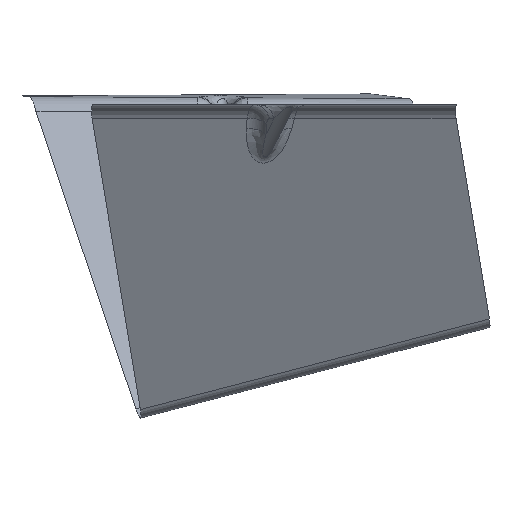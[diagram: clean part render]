
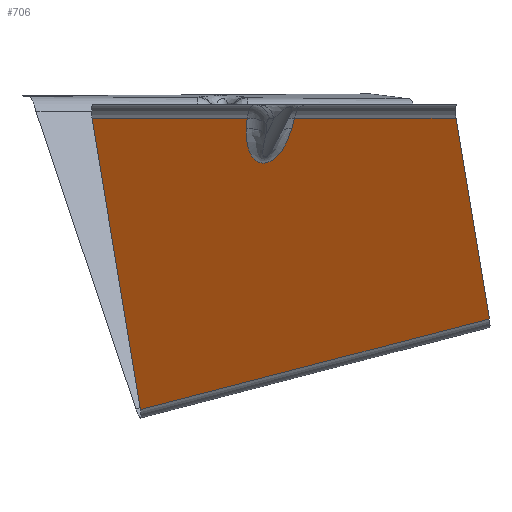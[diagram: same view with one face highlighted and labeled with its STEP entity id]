
A CAD part, left-side view. The second image highlights one B-rep face of the part: STEP entity #706.
In plain terms, the highlighted planar face has unit normal (-0.83, -0.249, -0.5).
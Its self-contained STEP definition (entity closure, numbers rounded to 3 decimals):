
#251=CARTESIAN_POINT('Vertex',(-89.67,7.485,-1.2)) ;
#274=CARTESIAN_POINT('Line Origine',(-71.506,9.618,-32.397)) ;
#278=CARTESIAN_POINT('Vertex',(-88.028,7.678,-4.021)) ;
#591=CARTESIAN_POINT('Control Point',(-84.292,-4.774,-4.021)) ;
#592=CARTESIAN_POINT('Control Point',(-84.082,-4.668,-4.423)) ;
#593=CARTESIAN_POINT('Control Point',(-83.874,-4.552,-4.825)) ;
#594=CARTESIAN_POINT('Control Point',(-83.67,-4.425,-5.226)) ;
#595=CARTESIAN_POINT('Control Point',(-83.096,-4.032,-6.374)) ;
#596=CARTESIAN_POINT('Control Point',(-82.556,-3.546,-7.513)) ;
#597=CARTESIAN_POINT('Control Point',(-82.222,-3.188,-8.245)) ;
#598=CARTESIAN_POINT('Control Point',(-81.775,-2.61,-9.273)) ;
#599=CARTESIAN_POINT('Control Point',(-81.387,-1.906,-10.269)) ;
#600=CARTESIAN_POINT('Control Point',(-81.278,-1.688,-10.558)) ;
#601=CARTESIAN_POINT('Control Point',(-81.092,-1.263,-11.077)) ;
#602=CARTESIAN_POINT('Control Point',(-80.934,-0.787,-11.577)) ;
#603=CARTESIAN_POINT('Control Point',(-80.869,-0.56,-11.798)) ;
#604=CARTESIAN_POINT('Control Point',(-80.767,-0.129,-12.181)) ;
#605=CARTESIAN_POINT('Control Point',(-80.698,0.352,-12.536)) ;
#606=CARTESIAN_POINT('Control Point',(-80.675,0.574,-12.685)) ;
#607=CARTESIAN_POINT('Control Point',(-80.644,1.083,-12.988)) ;
#608=CARTESIAN_POINT('Control Point',(-80.668,1.648,-13.23)) ;
#609=CARTESIAN_POINT('Control Point',(-80.7,1.972,-13.339)) ;
#610=CARTESIAN_POINT('Control Point',(-80.794,2.534,-13.462)) ;
#611=CARTESIAN_POINT('Control Point',(-80.954,3.1,-13.478)) ;
#612=CARTESIAN_POINT('Control Point',(-81.029,3.323,-13.465)) ;
#613=CARTESIAN_POINT('Control Point',(-81.257,3.916,-13.382)) ;
#614=CARTESIAN_POINT('Control Point',(-81.534,4.44,-13.183)) ;
#615=CARTESIAN_POINT('Control Point',(-81.722,4.739,-13.02)) ;
#616=CARTESIAN_POINT('Control Point',(-82.053,5.203,-12.702)) ;
#617=CARTESIAN_POINT('Control Point',(-82.39,5.587,-12.334)) ;
#618=CARTESIAN_POINT('Control Point',(-82.535,5.739,-12.169)) ;
#619=CARTESIAN_POINT('Control Point',(-82.863,6.059,-11.784)) ;
#620=CARTESIAN_POINT('Control Point',(-83.188,6.326,-11.377)) ;
#621=CARTESIAN_POINT('Control Point',(-83.369,6.462,-11.144)) ;
#622=CARTESIAN_POINT('Control Point',(-83.778,6.744,-10.606)) ;
#623=CARTESIAN_POINT('Control Point',(-84.181,6.97,-10.051)) ;
#624=CARTESIAN_POINT('Control Point',(-84.404,7.081,-9.737)) ;
#625=CARTESIAN_POINT('Control Point',(-84.899,7.301,-9.024)) ;
#626=CARTESIAN_POINT('Control Point',(-85.384,7.46,-8.298)) ;
#627=CARTESIAN_POINT('Control Point',(-85.651,7.533,-7.892)) ;
#628=CARTESIAN_POINT('Control Point',(-86.302,7.674,-6.882)) ;
#629=CARTESIAN_POINT('Control Point',(-86.935,7.731,-5.861)) ;
#630=CARTESIAN_POINT('Control Point',(-87.306,7.738,-5.249)) ;
#631=CARTESIAN_POINT('Control Point',(-87.67,7.72,-4.636)) ;
#632=CARTESIAN_POINT('Control Point',(-88.028,7.678,-4.021)) ;
#633=CARTESIAN_POINT('Vertex',(-84.292,-4.774,-4.021)) ;
#651=CARTESIAN_POINT('Axis2P3D Location',(-39.975,-11.993,-73.95)) ;
#656=CARTESIAN_POINT('Line Origine',(-85.031,-5.145,-2.61)) ;
#660=CARTESIAN_POINT('Vertex',(-85.77,-5.517,-1.2)) ;
#663=CARTESIAN_POINT('Line Origine',(-96.059,28.781,-1.2)) ;
#667=CARTESIAN_POINT('Vertex',(-102.448,50.077,-1.2)) ;
#670=CARTESIAN_POINT('Line Origine',(-76.361,43.444,-41.177)) ;
#674=CARTESIAN_POINT('Vertex',(-50.274,36.812,-81.155)) ;
#677=CARTESIAN_POINT('Line Origine',(-43.393,-11.124,-68.712)) ;
#681=CARTESIAN_POINT('Vertex',(-36.513,-59.059,-56.27)) ;
#684=CARTESIAN_POINT('Line Origine',(-54.48,-54.491,-28.735)) ;
#688=CARTESIAN_POINT('Vertex',(-72.448,-49.923,-1.2)) ;
#691=CARTESIAN_POINT('Line Origine',(-79.109,-27.72,-1.2)) ;
#275=DIRECTION('Vector Direction',(0.502,0.059,-0.863)) ;
#652=DIRECTION('Axis2P3D Direction',(0.83,0.249,0.5)) ;
#653=DIRECTION('Axis2P3D XDirection',(0.541,-0.138,-0.83)) ;
#657=DIRECTION('Vector Direction',(-0.452,-0.227,0.863)) ;
#664=DIRECTION('Vector Direction',(0.287,-0.958,0.)) ;
#671=DIRECTION('Vector Direction',(0.541,-0.138,-0.83)) ;
#678=DIRECTION('Vector Direction',(0.138,-0.959,0.249)) ;
#685=DIRECTION('Vector Direction',(-0.541,0.138,0.83)) ;
#692=DIRECTION('Vector Direction',(0.287,-0.958,0.)) ;
#654=AXIS2_PLACEMENT_3D('Plane Axis2P3D',#651,#652,#653) ;
#697=ORIENTED_EDGE('',*,*,#662,.T.) ;
#698=ORIENTED_EDGE('',*,*,#635,.T.) ;
#699=ORIENTED_EDGE('',*,*,#280,.T.) ;
#700=ORIENTED_EDGE('',*,*,#669,.F.) ;
#701=ORIENTED_EDGE('',*,*,#676,.T.) ;
#702=ORIENTED_EDGE('',*,*,#683,.T.) ;
#703=ORIENTED_EDGE('',*,*,#690,.T.) ;
#704=ORIENTED_EDGE('',*,*,#695,.F.) ;
#276=VECTOR('Line Direction',#275,1.) ;
#658=VECTOR('Line Direction',#657,1.) ;
#665=VECTOR('Line Direction',#664,1.) ;
#672=VECTOR('Line Direction',#671,1.) ;
#679=VECTOR('Line Direction',#678,1.) ;
#686=VECTOR('Line Direction',#685,1.) ;
#693=VECTOR('Line Direction',#692,1.) ;
#706=ADVANCED_FACE('Extract.1',(#705),#655,.F.) ;
#590=B_SPLINE_CURVE_WITH_KNOTS('',5,(#591,#592,#593,#594,#595,#596,#597,#598,#599,#600,#601,#602,#603,#604,#605,#606,#607,#608,#609,#610,#611,#612,#613,#614,#615,#616,#617,#618,#619,#620,#621,#622,#623,#624,#625,#626,#627,#628,#629,#630,#631,#632),.UNSPECIFIED.,.F.,.U.,(6,3,3,3,3,3,3,3,3,3,3,3,3,6),(23.231,26.336,32.125,34.532,36.522,38.092,39.926,41.151,43.277,44.871,46.898,49.475,52.678,57.419),.UNSPECIFIED.) ;
#280=EDGE_CURVE('',#279,#252,#277,.F.) ;
#635=EDGE_CURVE('',#634,#279,#590,.T.) ;
#662=EDGE_CURVE('',#661,#634,#659,.F.) ;
#669=EDGE_CURVE('',#668,#252,#666,.T.) ;
#676=EDGE_CURVE('',#668,#675,#673,.T.) ;
#683=EDGE_CURVE('',#675,#682,#680,.T.) ;
#690=EDGE_CURVE('',#682,#689,#687,.T.) ;
#695=EDGE_CURVE('',#661,#689,#694,.T.) ;
#696=EDGE_LOOP('',(#697,#698,#699,#700,#701,#702,#703,#704)) ;
#705=FACE_OUTER_BOUND('',#696,.T.) ;
#277=LINE('Line',#274,#276) ;
#659=LINE('Line',#656,#658) ;
#666=LINE('Line',#663,#665) ;
#673=LINE('Line',#670,#672) ;
#680=LINE('Line',#677,#679) ;
#687=LINE('Line',#684,#686) ;
#694=LINE('Line',#691,#693) ;
#655=PLANE('',#654) ;
#252=VERTEX_POINT('',#251) ;
#279=VERTEX_POINT('',#278) ;
#634=VERTEX_POINT('',#633) ;
#661=VERTEX_POINT('',#660) ;
#668=VERTEX_POINT('',#667) ;
#675=VERTEX_POINT('',#674) ;
#682=VERTEX_POINT('',#681) ;
#689=VERTEX_POINT('',#688) ;
